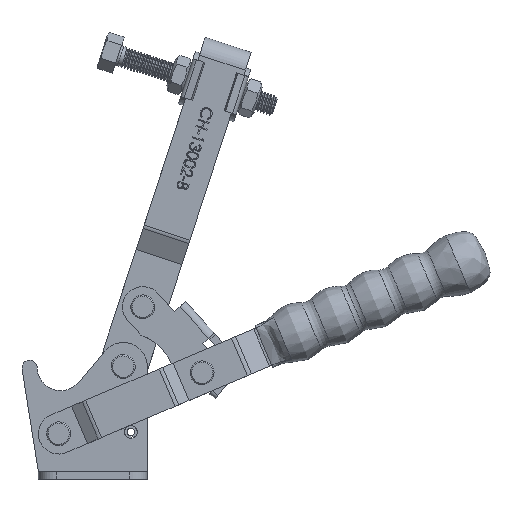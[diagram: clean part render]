
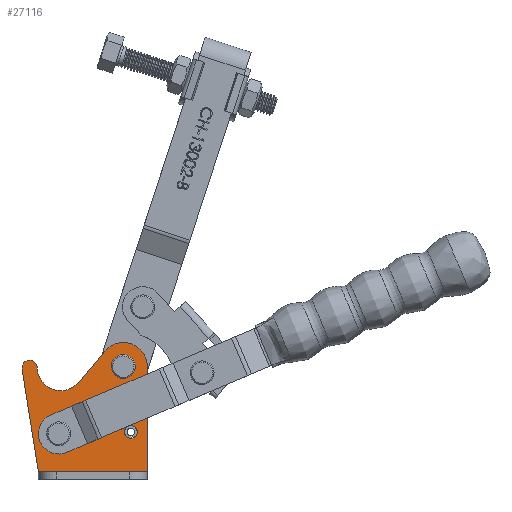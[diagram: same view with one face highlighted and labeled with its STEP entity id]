
A CAD part, top view. The second image highlights one B-rep face of the part: STEP entity #27116.
In plain terms, the highlighted planar face has unit normal (0, 0, 1).
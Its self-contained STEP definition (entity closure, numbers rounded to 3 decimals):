
#884=FACE_BOUND('',#9073,.T.);
#885=FACE_BOUND('',#9074,.T.);
#886=FACE_BOUND('',#9075,.T.);
#2404=LINE('',#79180,#4665);
#2405=LINE('',#79182,#4666);
#2406=LINE('',#79185,#4667);
#2407=LINE('',#79186,#4668);
#4665=VECTOR('',#35137,1000.);
#4666=VECTOR('',#35138,1000.);
#4667=VECTOR('',#35141,1000.);
#4668=VECTOR('',#35142,1000.);
#5975=PLANE('',#29459);
#7406=FACE_OUTER_BOUND('',#9072,.T.);
#9072=EDGE_LOOP('',(#23312,#23313,#23314,#23315,#23316,#23317,#23318));
#9073=EDGE_LOOP('',(#23319,#23320));
#9074=EDGE_LOOP('',(#23321,#23322));
#9075=EDGE_LOOP('',(#23323,#23324));
#10836=CIRCLE('',#29439,2.5);
#10839=CIRCLE('',#29442,2.5);
#10840=CIRCLE('',#29444,4.75);
#10843=CIRCLE('',#29447,4.75);
#10844=CIRCLE('',#29449,3.2);
#10847=CIRCLE('',#29452,3.2);
#10848=CIRCLE('',#29454,2.998);
#10850=CIRCLE('',#29457,9.3);
#10852=CIRCLE('',#29460,9.5);
#13113=VERTEX_POINT('',#79133);
#13114=VERTEX_POINT('',#79134);
#13117=VERTEX_POINT('',#79143);
#13118=VERTEX_POINT('',#79144);
#13121=VERTEX_POINT('',#79153);
#13122=VERTEX_POINT('',#79154);
#13125=VERTEX_POINT('',#79163);
#13126=VERTEX_POINT('',#79164);
#13129=VERTEX_POINT('',#79172);
#13131=VERTEX_POINT('',#79178);
#13132=VERTEX_POINT('',#79179);
#13133=VERTEX_POINT('',#79181);
#13134=VERTEX_POINT('',#79183);
#16588=EDGE_CURVE('',#13113,#13114,#10836,.T.);
#16592=EDGE_CURVE('',#13114,#13113,#10839,.T.);
#16593=EDGE_CURVE('',#13117,#13118,#10840,.T.);
#16597=EDGE_CURVE('',#13118,#13117,#10843,.T.);
#16598=EDGE_CURVE('',#13121,#13122,#10844,.T.);
#16602=EDGE_CURVE('',#13122,#13121,#10847,.T.);
#16603=EDGE_CURVE('',#13125,#13126,#10848,.T.);
#16607=EDGE_CURVE('',#13129,#13125,#10850,.T.);
#16610=EDGE_CURVE('',#13131,#13132,#2404,.T.);
#16611=EDGE_CURVE('',#13131,#13133,#2405,.T.);
#16612=EDGE_CURVE('',#13133,#13134,#10852,.T.);
#16613=EDGE_CURVE('',#13134,#13129,#2406,.T.);
#16614=EDGE_CURVE('',#13126,#13132,#2407,.T.);
#23312=ORIENTED_EDGE('',*,*,#16610,.F.);
#23313=ORIENTED_EDGE('',*,*,#16611,.T.);
#23314=ORIENTED_EDGE('',*,*,#16612,.T.);
#23315=ORIENTED_EDGE('',*,*,#16613,.T.);
#23316=ORIENTED_EDGE('',*,*,#16607,.T.);
#23317=ORIENTED_EDGE('',*,*,#16603,.T.);
#23318=ORIENTED_EDGE('',*,*,#16614,.T.);
#23319=ORIENTED_EDGE('',*,*,#16593,.F.);
#23320=ORIENTED_EDGE('',*,*,#16597,.F.);
#23321=ORIENTED_EDGE('',*,*,#16598,.F.);
#23322=ORIENTED_EDGE('',*,*,#16602,.F.);
#23323=ORIENTED_EDGE('',*,*,#16588,.F.);
#23324=ORIENTED_EDGE('',*,*,#16592,.F.);
#27116=ADVANCED_FACE('',(#7406,#884,#885,#886),#5975,.T.);
#29439=AXIS2_PLACEMENT_3D('',#79135,#35089,#35090);
#29442=AXIS2_PLACEMENT_3D('',#79141,#35096,#35097);
#29444=AXIS2_PLACEMENT_3D('',#79145,#35100,#35101);
#29447=AXIS2_PLACEMENT_3D('',#79151,#35107,#35108);
#29449=AXIS2_PLACEMENT_3D('',#79155,#35111,#35112);
#29452=AXIS2_PLACEMENT_3D('',#79161,#35118,#35119);
#29454=AXIS2_PLACEMENT_3D('',#79165,#35122,#35123);
#29457=AXIS2_PLACEMENT_3D('',#79173,#35130,#35131);
#29459=AXIS2_PLACEMENT_3D('',#79177,#35135,#35136);
#29460=AXIS2_PLACEMENT_3D('',#79184,#35139,#35140);
#35089=DIRECTION('center_axis',(0.,0.,1.));
#35090=DIRECTION('ref_axis',(1.,0.,0.));
#35096=DIRECTION('center_axis',(0.,0.,1.));
#35097=DIRECTION('ref_axis',(1.,0.,0.));
#35100=DIRECTION('center_axis',(0.,0.,1.));
#35101=DIRECTION('ref_axis',(1.,0.,0.));
#35107=DIRECTION('center_axis',(0.,0.,1.));
#35108=DIRECTION('ref_axis',(1.,0.,0.));
#35111=DIRECTION('center_axis',(0.,0.,1.));
#35112=DIRECTION('ref_axis',(1.,0.,0.));
#35118=DIRECTION('center_axis',(0.,0.,1.));
#35119=DIRECTION('ref_axis',(1.,0.,0.));
#35122=DIRECTION('center_axis',(0.,0.,1.));
#35123=DIRECTION('ref_axis',(1.,0.,0.));
#35130=DIRECTION('center_axis',(0.,0.,-1.));
#35131=DIRECTION('ref_axis',(1.,0.,0.));
#35135=DIRECTION('center_axis',(0.,0.,1.));
#35136=DIRECTION('ref_axis',(1.,0.,0.));
#35137=DIRECTION('',(-1.,0.,0.));
#35138=DIRECTION('',(0.,1.,0.));
#35139=DIRECTION('center_axis',(0.,0.,1.));
#35140=DIRECTION('ref_axis',(1.,0.,0.));
#35141=DIRECTION('',(-0.643,-0.766,0.));
#35142=DIRECTION('',(0.156,-0.988,0.));
#79133=CARTESIAN_POINT('',(31.197,18.7,3.));
#79134=CARTESIAN_POINT('',(36.197,18.7,3.));
#79135=CARTESIAN_POINT('Origin',(33.697,18.7,3.));
#79141=CARTESIAN_POINT('Origin',(33.697,18.7,3.));
#79143=CARTESIAN_POINT('',(0.447,18.,3.));
#79144=CARTESIAN_POINT('',(9.947,18.,3.));
#79145=CARTESIAN_POINT('Origin',(5.197,18.,3.));
#79151=CARTESIAN_POINT('Origin',(5.197,18.,3.));
#79153=CARTESIAN_POINT('',(27.497,44.5,3.));
#79154=CARTESIAN_POINT('',(33.897,44.5,3.));
#79155=CARTESIAN_POINT('Origin',(30.697,44.5,3.));
#79161=CARTESIAN_POINT('Origin',(30.697,44.5,3.));
#79163=CARTESIAN_POINT('',(-3.302,44.479,3.));
#79164=CARTESIAN_POINT('',(-9.224,43.541,3.));
#79165=CARTESIAN_POINT('Origin',(-6.263,44.01,3.));
#79172=CARTESIAN_POINT('',(13.121,38.332,3.));
#79173=CARTESIAN_POINT('Origin',(5.997,44.31,3.));
#79177=CARTESIAN_POINT('Origin',(-6.263,44.01,3.));
#79178=CARTESIAN_POINT('',(40.197,3.,3.));
#79179=CARTESIAN_POINT('',(-2.803,3.,3.));
#79180=CARTESIAN_POINT('',(-2.803,3.,3.));
#79181=CARTESIAN_POINT('',(40.197,44.5,3.));
#79182=CARTESIAN_POINT('',(40.197,0.,3.));
#79183=CARTESIAN_POINT('',(23.419,50.606,3.));
#79184=CARTESIAN_POINT('Origin',(30.697,44.5,3.));
#79185=CARTESIAN_POINT('',(13.121,38.332,3.));
#79186=CARTESIAN_POINT('',(-2.803,3.,3.));
